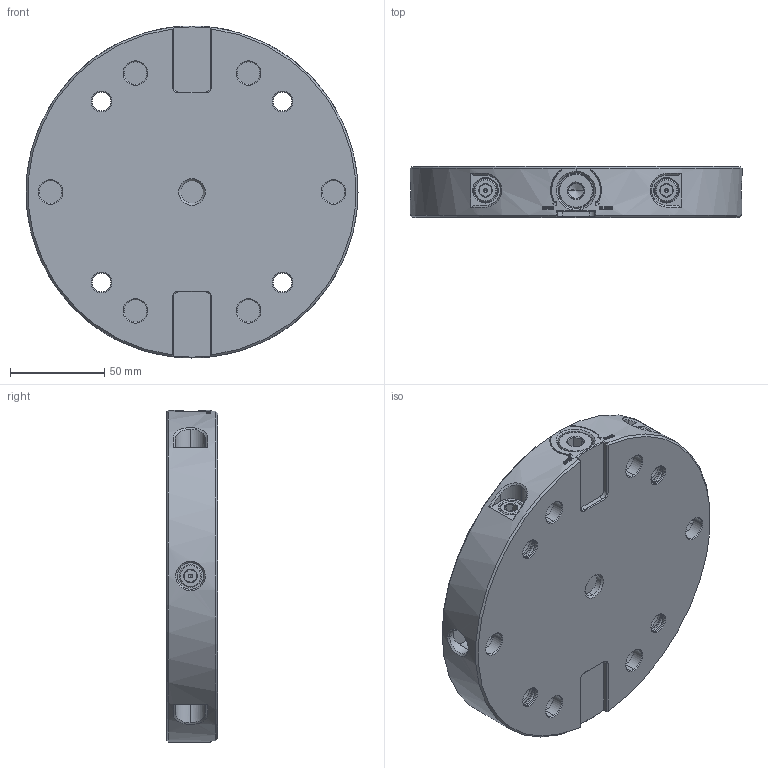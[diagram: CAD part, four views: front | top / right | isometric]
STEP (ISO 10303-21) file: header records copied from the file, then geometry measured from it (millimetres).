
FILE_DESCRIPTION((''),'2;1');
FILE_NAME('TI_WH_96ZPS_RD176NP001_ASM','2026-06-08T09:42:16',('Admin'),(''),'CREO PARAMETRIC BY PTC INC, 2025010','CREO PARAMETRIC BY PTC INC, 2025010','');
FILE_SCHEMA(('CONFIG_CONTROL_DESIGN'));
Length unit declared in the file: millimetre
Products named in the file (16): F009-0010923B__10001; B11500-00185_O--130001; B40101-00003_-13780001; B40101-00003_-20230001; B40101-00003_-22120001; _30001; B40101-00003_-37590001; B11500-00185_O--400001; B40101-00003_-46680001; B11500-00185_O--470001; B11500-00185_O--510001; B40101-00003_-53850001; NT-S96P176V1_ASM; CAP_1; F009-0035176A_-1-S0001; TI_WH_96ZPS_RD176NP001_ASM
Assembly tree (20 placements, depth 3):
  TI_WH_96ZPS_RD176NP001_ASM
    NT-S96P176V1_ASM
      F009-0010923B__10001
      B11500-00185_O--130001
      B40101-00003_-13780001
      B40101-00003_-20230001
      B40101-00003_-22120001
      _30001
      B40101-00003_-37590001
      B11500-00185_O--400001
      B40101-00003_-46680001
      B11500-00185_O--470001
      B11500-00185_O--510001
      B40101-00003_-53850001
    CAP_1  x6
    F009-0035176A_-1-S0001
Bounding box: 176 x 27.05 x 176 mm (x, y, z)
Volume: 583510.6 mm3; surface area: 94330.9 mm2
Topology: 19 solids, 19 shells, 849 faces, 1989 edges, 1205 vertices
Faces by surface type: plane 269, cone 229, cylinder 226, bspline 101, torus 24
Entity records: 40923 total; most frequent: CARTESIAN_POINT 23687, ORIENTED_EDGE 3534, DIRECTION 3467, EDGE_CURVE 1767, AXIS2_PLACEMENT_3D 1351, VERTEX_POINT 1085, EDGE_LOOP 840, VECTOR 765
